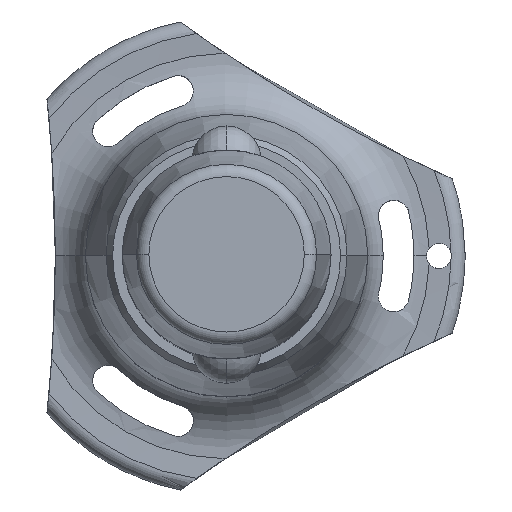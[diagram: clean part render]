
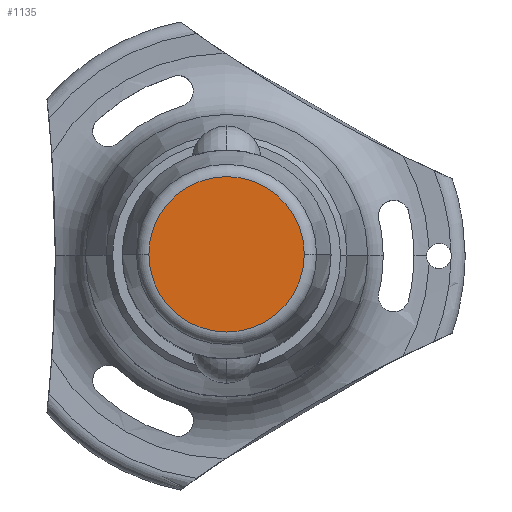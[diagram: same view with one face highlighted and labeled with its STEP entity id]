
A CAD part, top view. The second image highlights one B-rep face of the part: STEP entity #1135.
In plain terms, the highlighted planar face has unit normal (0, 0, 1).
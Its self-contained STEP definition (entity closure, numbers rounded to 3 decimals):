
#119 = DIRECTION ( 'NONE',  ( 1., 0., 0. ) ) ;
#133 = PLANE ( 'NONE',  #717 ) ;
#233 = DIRECTION ( 'NONE',  ( 0., 0., 1. ) ) ;
#619 = FACE_OUTER_BOUND ( 'NONE', #2814, .T. ) ;
#688 = VERTEX_POINT ( 'NONE', #1246 ) ;
#717 = AXIS2_PLACEMENT_3D ( 'NONE', #1679, #2134, #1929 ) ;
#800 = ORIENTED_EDGE ( 'NONE', *, *, #860, .T. ) ;
#860 = EDGE_CURVE ( 'NONE', #688, #2238, #1123, .T. ) ;
#925 = CARTESIAN_POINT ( 'NONE',  ( 9.302, 0., 22. ) ) ;
#1122 = CIRCLE ( 'NONE', #1967, 9.302 ) ;
#1123 = CIRCLE ( 'NONE', #1502, 9.302 ) ;
#1135 = ADVANCED_FACE ( 'NONE', ( #619 ), #133, .T. ) ;
#1239 = CARTESIAN_POINT ( 'NONE',  ( 0., 0., 22. ) ) ;
#1246 = CARTESIAN_POINT ( 'NONE',  ( -9.302, 0., 22. ) ) ;
#1502 = AXIS2_PLACEMENT_3D ( 'NONE', #2193, #233, #1776 ) ;
#1679 = CARTESIAN_POINT ( 'NONE',  ( 0., 0., 22. ) ) ;
#1776 = DIRECTION ( 'NONE',  ( 1., 0., 0. ) ) ;
#1901 = DIRECTION ( 'NONE',  ( 0., 0., 1. ) ) ;
#1929 = DIRECTION ( 'NONE',  ( 1., 0., 0. ) ) ;
#1967 = AXIS2_PLACEMENT_3D ( 'NONE', #1239, #1901, #119 ) ;
#2134 = DIRECTION ( 'NONE',  ( 0., 0., 1. ) ) ;
#2187 = ORIENTED_EDGE ( 'NONE', *, *, #2455, .T. ) ;
#2193 = CARTESIAN_POINT ( 'NONE',  ( 0., 0., 22. ) ) ;
#2238 = VERTEX_POINT ( 'NONE', #925 ) ;
#2455 = EDGE_CURVE ( 'NONE', #2238, #688, #1122, .T. ) ;
#2814 = EDGE_LOOP ( 'NONE', ( #2187, #800 ) ) ;
